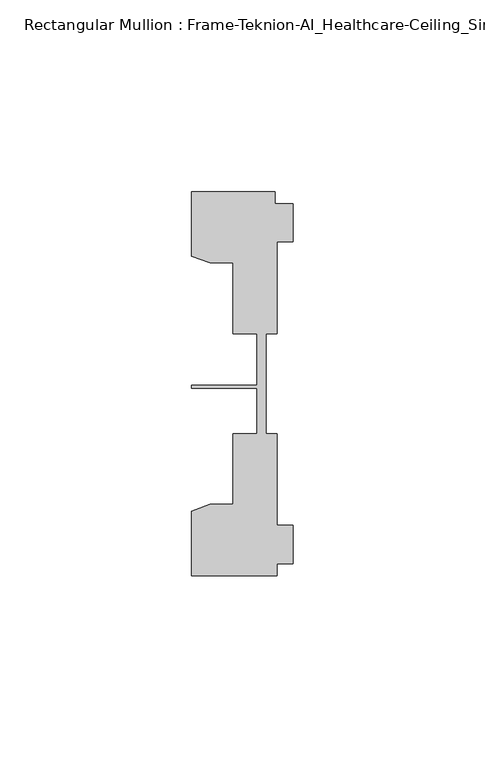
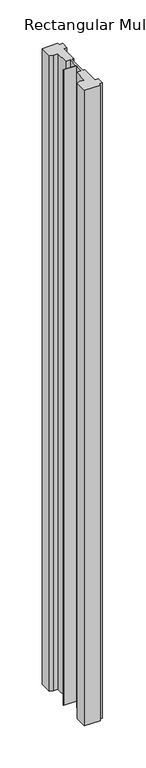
"""IFC4 building model written with IfcOpenShell, lengths in millimetres: member geometry, Rectangular Mullion : Frame-Teknion-AI_Healthcare-Ceiling_Single_Channel."""

import ifcopenshell
import ifcopenshell.guid

model = None  # the IFC model being written
_history = None  # IfcOwnerHistory: only IFC2X3 demands one
_inside = {}  # id of a spatial element -> (the spatial element, [elements in it])
_under = {}  # id of a project, library or spatial element -> (it, [spatial elements below it])
_declared = {}  # id of a project -> (the project, [libraries it declares])
_typed = {}  # id of a type object -> (the type object, [elements of that type])
_made_of = {}  # id of a material, layer set ... -> (it, [elements and type objects made of it])


def new_model(schema):
    """Start an empty IFC model of exactly this schema.

    Asked for "IFC4X3", IfcOpenShell would pick the latest addendum, in which some entities
    have other attributes; the version numbers below select the first issue.
    IFC2X3 requires an IfcOwnerHistory on every rooted entity: one is made here for all.
    """
    global model, _history
    if schema == "IFC4X3":
        model = ifcopenshell.file(schema_version=(4, 3, 0, 0))
    else:
        model = ifcopenshell.file(schema=schema)
    _inside.clear()
    _under.clear()
    _declared.clear()
    _typed.clear()
    _made_of.clear()
    _history = None
    if model.schema == "IFC2X3":
        org = make("IfcOrganization", Name="unknown")
        user = make(
            "IfcPersonAndOrganization",
            ThePerson=make("IfcPerson", FamilyName="unknown"),
            TheOrganization=org,
        )
        app = make(
            "IfcApplication",
            ApplicationDeveloper=org,
            Version="unknown",
            ApplicationFullName="unknown",
            ApplicationIdentifier="unknown",
        )
        _history = make(
            "IfcOwnerHistory",
            OwningUser=user,
            OwningApplication=app,
            ChangeAction="ADDED",
            CreationDate=0,
        )
    return model


def make(cls, **values):
    """One entity of the class cls with the attributes given. An attribute that is None is left unset."""
    return model.create_entity(
        cls, **{name: value for name, value in values.items() if value is not None}
    )


def rooted(cls, **values):
    """An entity with a GlobalId (a new one), such as an element, a storey or a relation."""
    return make(cls, GlobalId=ifcopenshell.guid.new(), OwnerHistory=_history, **values)


def si_unit(unit_type, name, prefix=None):
    """IfcSIUnit, for example si_unit("LENGTHUNIT", "METRE", prefix="MILLI")."""
    return make("IfcSIUnit", UnitType=unit_type, Prefix=prefix, Name=name)


def assignment(units):
    """IfcUnitAssignment: the units of a project."""
    return None if units is None else make("IfcUnitAssignment", Units=units)


def point(xyz):
    """IfcCartesianPoint."""
    return None if xyz is None else make("IfcCartesianPoint", Coordinates=xyz)


def direction(xyz):
    """IfcDirection."""
    return None if xyz is None else make("IfcDirection", DirectionRatios=xyz)


def frame(location, z_axis=None, x_axis=None):
    """IfcAxis2Placement3D, a coordinate frame: its origin and axes. An axis left out is left unset."""
    return make(
        "IfcAxis2Placement3D",
        Location=point(location),
        Axis=direction(z_axis),
        RefDirection=direction(x_axis),
    )


def origin():
    """The frame at (0, 0, 0) with its axes left unset."""
    return frame((0.0, 0.0, 0.0))


def place(relative_to, where):
    """IfcLocalPlacement: puts the frame where relative to a parent placement (None: the world)."""
    return make(
        "IfcLocalPlacement", PlacementRelTo=relative_to, RelativePlacement=where
    )


def context(
    kind, dimensions, precision=None, world=None, true_north=None, identifier=None
):
    """IfcGeometricRepresentationContext, for example the 3D "Model" context."""
    return make(
        "IfcGeometricRepresentationContext",
        ContextIdentifier=identifier,
        ContextType=kind,
        CoordinateSpaceDimension=dimensions,
        Precision=precision,
        WorldCoordinateSystem=world,
        TrueNorth=true_north,
    )


def project(units=None, contexts=None):
    """IfcProject with its units and contexts."""
    return rooted(
        "IfcProject",
        Name="project",
        RepresentationContexts=contexts,
        UnitsInContext=assignment(units),
    )


def spatial(cls, under=None, at=None, **own):
    """A site, building, storey or space (cls), placed at a placement, below another one or the project."""
    s = rooted(cls, ObjectPlacement=at, **own)
    if under is not None:
        _under.setdefault(under.id(), (under, []))[1].append(s)
    return s


def polyline(points):
    """IfcPolyline through the points."""
    return make("IfcPolyline", Points=[point(p) for p in points])


def outline(outer, holes=None, kind="AREA"):
    """IfcArbitraryClosedProfileDef: a profile drawn as a closed curve; with holes, ...WithVoids."""
    if holes is None:
        return make("IfcArbitraryClosedProfileDef", ProfileType=kind, OuterCurve=outer)
    return make(
        "IfcArbitraryProfileDefWithVoids",
        ProfileType=kind,
        OuterCurve=outer,
        InnerCurves=holes,
    )


def extrude(swept, where, along, depth):
    """IfcExtrudedAreaSolid: the profile swept, set in the frame where, extruded along a direction by depth."""
    return make(
        "IfcExtrudedAreaSolid",
        SweptArea=swept,
        Position=where,
        ExtrudedDirection=direction(along),
        Depth=depth,
    )


def shape(context_of_items, identifier, shape_type, items):
    """IfcShapeRepresentation: the items that make up one representation, for example the "Body"."""
    return make(
        "IfcShapeRepresentation",
        ContextOfItems=context_of_items,
        RepresentationIdentifier=identifier,
        RepresentationType=shape_type,
        Items=items,
    )


def source(mapping_origin, context_of_items, identifier, shape_type, items):
    """IfcRepresentationMap: a shape defined once, which mapped items show again and again."""
    return make(
        "IfcRepresentationMap",
        MappingOrigin=mapping_origin,
        MappedRepresentation=shape(context_of_items, identifier, shape_type, items),
    )


def transform(
    local_origin,
    x_axis=None,
    y_axis=None,
    z_axis=None,
    scale=None,
    scale2=None,
    scale3=None,
    uniform=True,
):
    """IfcCartesianTransformationOperator3D, or its non-uniform kind. x_axis, y_axis, z_axis: its Axis1, 2, 3."""
    if uniform:
        return make(
            "IfcCartesianTransformationOperator3D",
            Axis1=direction(x_axis),
            Axis2=direction(y_axis),
            LocalOrigin=point(local_origin),
            Scale=scale,
            Axis3=direction(z_axis),
        )
    return make(
        "IfcCartesianTransformationOperator3DnonUniform",
        Axis1=direction(x_axis),
        Axis2=direction(y_axis),
        LocalOrigin=point(local_origin),
        Scale=scale,
        Axis3=direction(z_axis),
        Scale2=scale2,
        Scale3=scale3,
    )


def mapped(mapping_source, mapping_target):
    """IfcMappedItem: shows the shape of a source again, moved by a transform."""
    return make(
        "IfcMappedItem", MappingSource=mapping_source, MappingTarget=mapping_target
    )


def made_of(thing, what):
    """Note that an element or type object is made of a material, layer set ...; save() writes the relation."""
    if what is not None:
        _made_of.setdefault(what.id(), (what, []))[1].append(thing)
    return thing


def element(
    cls,
    number,
    at=None,
    inside=None,
    cuts=None,
    type_object=None,
    material=None,
    context=None,
    identifier="Body",
    shape_type=None,
    held_by="IfcProductDefinitionShape",
    body=None,
    shapes=None,
    **own,
):
    """One element of the class cls, such as IfcWall. Its Tag is "e" and its number.

    at: its placement. inside: the storey or other place that contains it. cuts: it is an
    opening in that element (IfcRelVoidsElement). A single representation is given by context,
    identifier, shape_type and body (its items); several are given by shapes. held_by: the class
    of the entity that holds the representations. save() writes the other relations.
    """
    e = rooted(cls, Tag="e%d" % number, ObjectPlacement=at, **own)
    if body is not None:
        shapes = [shape(context, identifier, shape_type, body)]
    if shapes is not None:
        e.Representation = make(held_by, Representations=shapes)
    if inside is not None:
        _inside.setdefault(inside.id(), (inside, []))[1].append(e)
    if cuts is not None:
        rooted(
            "IfcRelVoidsElement", RelatingBuildingElement=cuts, RelatedOpeningElement=e
        )
    if type_object is not None:
        _typed.setdefault(type_object.id(), (type_object, []))[1].append(e)
    return made_of(e, material)


def aggregate(whole, parts):
    """IfcRelAggregates: a whole, such as a stair, and the parts it consists of."""
    return rooted("IfcRelAggregates", RelatingObject=whole, RelatedObjects=parts)


def save(model, path):
    """Write the relations noted so far, then the file.

    IfcRelAggregates (storeys below a building ...), IfcRelContainedInSpatialStructure (elements
    in a storey), IfcRelDefinesByType, IfcRelAssociatesMaterial and IfcRelDeclares: one each for
    every whole, place, type object, material and project.
    """
    for whole, parts in _under.values():
        aggregate(whole, parts)
    for where, things in _inside.values():
        rooted(
            "IfcRelContainedInSpatialStructure",
            RelatedElements=things,
            RelatingStructure=where,
        )
    for kind, things in _typed.values():
        rooted("IfcRelDefinesByType", RelatedObjects=things, RelatingType=kind)
    for what, things in _made_of.values():
        rooted("IfcRelAssociatesMaterial", RelatedObjects=things, RelatingMaterial=what)
    for by, libraries in _declared.values():
        rooted("IfcRelDeclares", RelatingContext=by, RelatedDefinitions=libraries)
    model.write(path)


def rectangular_mullion_frame_teknion_ai_healthcare_ceiling_74a818bb(model_context):
    return source(origin(), model_context, "Body", "SweptSolid", [
        extrude(outline(polyline([(-26.4921999, 34.0201677), (-26.4921999, 50.8315128), (-4.7752002, 50.8315128), (-4.7752002, 47.782071), (0.0, 47.782071), (0.0, 37.7820716), (-4.2672007, 37.7820716), (-4.2672007, 13.9110722), (-7.1647766, 13.9110722), (-7.1647766, 0.0814804), (-7.1647766, -12.2509301), (-4.2672007, -12.2509301), (-4.2672007, -36.1219249), (0.0, -36.1219249), (0.0, -46.1219322), (-4.2672007, -46.1219322), (-4.2672007, -49.1699293), (-26.4921999, -49.1699293), (-26.4921999, -32.3600207), (-21.6625199, -30.6279561), (-15.6737764, -30.6279561), (-15.6737764, -12.2509301), (-9.4507761, -12.2509301), (-9.4507761, -0.4036528), (-26.4921999, -0.4036528), (-26.4921999, 0.4036528), (-9.4507761, 0.4036528), (-9.4507761, 13.9110722), (-15.6737764, 13.9110722), (-15.6737764, 32.2880982), (-21.6625199, 32.2880982), (-26.4921999, 34.0201677)])), frame((0.0, 0.0, -920.75), z_axis=(0.0, 0.0, 1.0), x_axis=(1.0, 0.0, 0.0)), (0.0, 0.0, 1.0), 920.75),
    ])


if __name__ == "__main__":
    model = new_model("IFC4")
    model_context = context("Model", 3, world=origin())
    ifc_project = project(units=[si_unit("LENGTHUNIT", "METRE", prefix="MILLI")], contexts=[model_context])
    site = spatial("IfcSite", under=ifc_project)
    building = spatial("IfcBuilding", under=site)
    placement = place(None, origin())
    rectangular_mullion_frame_teknion_ai_healthcare_ceiling_shape = rectangular_mullion_frame_teknion_ai_healthcare_ceiling_74a818bb(model_context)
    element("IfcMember", 1, ObjectType="Rectangular Mullion : Frame-Teknion-AI_Healthcare-Ceiling_Single_Channel", at=placement, inside=building, context=model_context, shape_type="MappedRepresentation", body=[
        mapped(rectangular_mullion_frame_teknion_ai_healthcare_ceiling_shape, transform((0.0, 0.0, 0.0), x_axis=(1.0, 0.0, 0.0), y_axis=(0.0, 1.0, 0.0), z_axis=(0.0, 0.0, 1.0))),
    ])
    save(model, "model.ifc")
